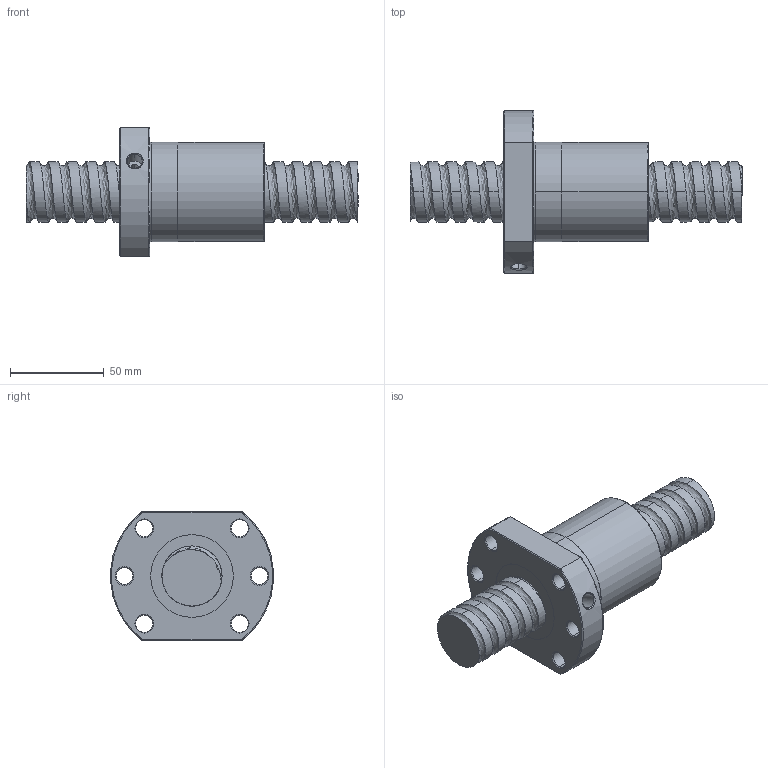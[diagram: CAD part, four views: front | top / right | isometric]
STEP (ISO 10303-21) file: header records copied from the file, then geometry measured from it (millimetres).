
FILE_DESCRIPTION (( 'STEP AP214' ), '1' );
FILE_NAME ('FSDC03210T5-D-C.STEP', '2010-06-25T11:42:56', ( 'XPAUTO' ), ( 'XPAUTO' ), 'SwSTEP 2.0', 'SolidWorks 2007', '' );
FILE_SCHEMA (( 'AUTOMOTIVE_DESIGN' ));
Length unit declared in the file: millimetre
Products named in the file (3): FSDC03210T5-D-C.sldasm-Part-2_預設; FSDC03210T5-D-C; FSDC03210T5-D-C.sldasm-Part-1_預設
Assembly tree (2 placements, depth 2):
  FSDC03210T5-D-C
    FSDC03210T5-D-C.sldasm-Part-1_預設
    FSDC03210T5-D-C.sldasm-Part-2_預設
Bounding box: 177 x 86.7 x 69 mm (x, y, z)
Volume: 279935.9 mm3; surface area: 55708 mm2
Topology: 2 solids, 3 shells, 132 faces, 326 edges, 205 vertices
Faces by surface type: cylinder 74, cone 24, plane 23, torus 6, bspline 5
Entity records: 26084 total; most frequent: CARTESIAN_POINT 22986, ORIENTED_EDGE 652, DIRECTION 596, EDGE_CURVE 326, AXIS2_PLACEMENT_3D 241, VERTEX_POINT 205, EDGE_LOOP 153, FACE_OUTER_BOUND 132
